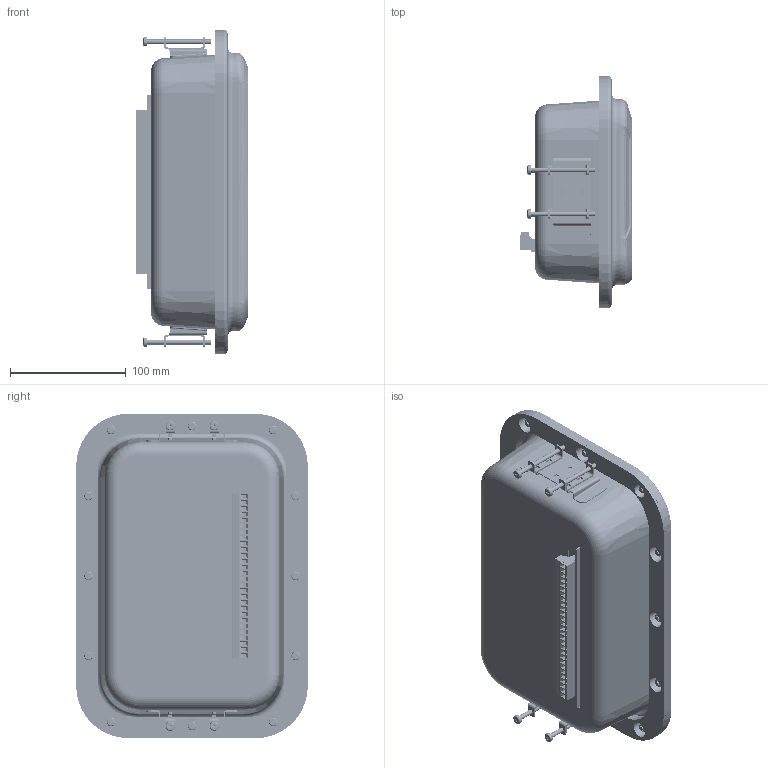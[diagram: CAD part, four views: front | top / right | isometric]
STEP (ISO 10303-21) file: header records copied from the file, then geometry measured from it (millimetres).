
FILE_DESCRIPTION((''),'1');
FILE_NAME('EILH_version-Q.step','2025-10-28T08:27:23',(''),(''),'','','');
FILE_SCHEMA(('AUTOMOTIVE_DESIGN { 1 0 10303 214 1 1 1 1 }'));
Products named in the file (16): EILH version-Q; EILH part 02; EILH seal 01; EILH part 04; EILH nut 01; EILH part 05; EILH connector 01; EILH part 06; EILH circuit board 01; EILH part 07; EILH part 08; EILH screw 01; EILH part 09
Assembly tree (35 placements, depth 3):
  EILH version-Q
    EILH part 02
    EILH seal 01
    EILH part 04
    EILH nut 01  x12
    EILH part 05
      EILH connector 01  x2
      EILH part 06  x2
      EILH circuit board 01
    EILH part 07  x2
    EILH part 08
      EILH screw 01
      EILH part 09
    EILH part 08
      EILH screw 01
      EILH part 09
    EILH part 08
      EILH screw 01
      EILH part 09
    EILH part 08
      EILH screw 01
      EILH part 09
Bounding box: 97.5 x 200.08 x 280.03 mm (x, y, z)
Volume: 307602.5 mm3; surface area: 449827.5 mm2
Topology: 30 solids, 62 shells, 6710 faces, 17017 edges, 10683 vertices
Faces by surface type: plane 3772, cylinder 1944, cone 524, torus 310, bspline 160
Entity records: 119243 total; most frequent: CARTESIAN_POINT 36190, DIRECTION 17268, ORIENTED_EDGE 17086, EDGE_CURVE 8573, AXIS2_PLACEMENT_3D 5969, VERTEX_POINT 5420, LINE 5330, VECTOR 5330
